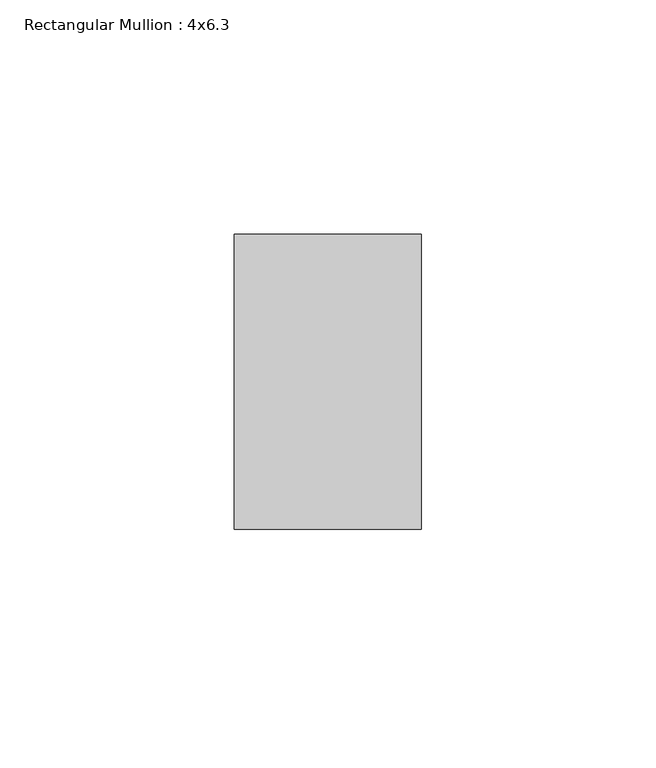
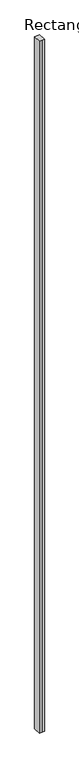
"""IFC4 building model written with IfcOpenShell, lengths in millimetres: member geometry, Rectangular Mullion : 4x6.3."""

from ifc_helpers import new_model, si_unit, frame, origin, place, context, project, spatial, polyline, outline, extrude, source, transform, mapped, element, save


def rectangular_mullion_4x6_3_f334f0c3(model_context):
    return source(origin(), model_context, "Body", "SweptSolid", [
        extrude(outline(polyline([(-20.0, 20.0), (-20.0, 83.0), (20.0, 83.0), (20.0, 20.0), (0.0, 20.0), (-20.0, 20.0)])), frame((0.0, 0.0, -5770.637355), z_axis=(0.0, 0.0, 1.0), x_axis=(1.0, 0.0, 0.0)), (0.0, 0.0, 1.0), 5770.637355),
    ])


if __name__ == "__main__":
    model = new_model("IFC4")
    model_context = context("Model", 3, world=origin())
    ifc_project = project(units=[si_unit("LENGTHUNIT", "METRE", prefix="MILLI")], contexts=[model_context])
    site = spatial("IfcSite", under=ifc_project)
    building = spatial("IfcBuilding", under=site)
    placement = place(None, origin())
    rectangular_mullion_4x6_3_shape = rectangular_mullion_4x6_3_f334f0c3(model_context)
    element("IfcMember", 1, ObjectType="Rectangular Mullion : 4x6.3", at=placement, inside=building, context=model_context, shape_type="MappedRepresentation", body=[
        mapped(rectangular_mullion_4x6_3_shape, transform((0.0, 0.0, 0.0), x_axis=(1.0, 0.0, 0.0), y_axis=(0.0, 1.0, 0.0), z_axis=(0.0, 0.0, 1.0))),
    ])
    save(model, "model.ifc")
